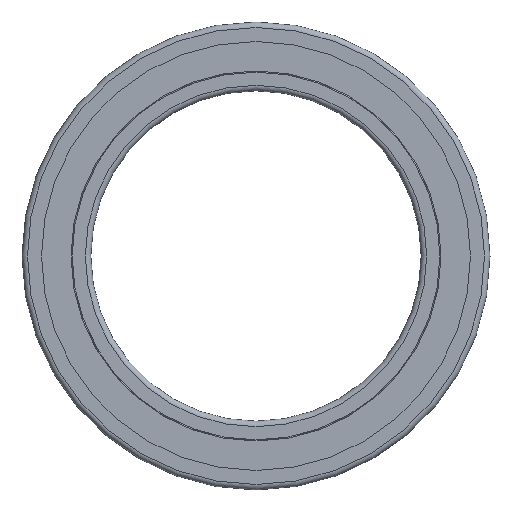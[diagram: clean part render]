
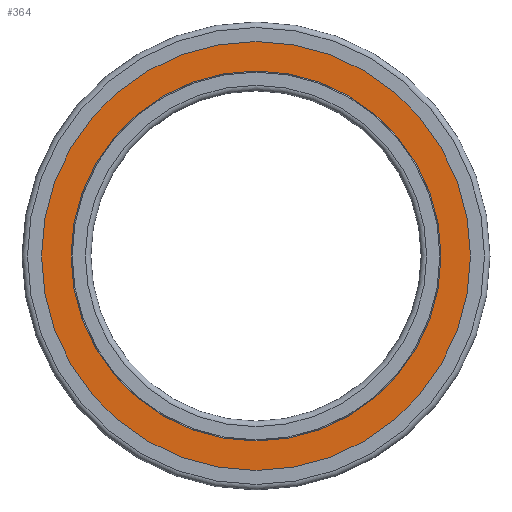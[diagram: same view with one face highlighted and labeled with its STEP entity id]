
A CAD part, left-side view. The second image highlights one B-rep face of the part: STEP entity #364.
In plain terms, the highlighted planar face has unit normal (-1, 0, 0).
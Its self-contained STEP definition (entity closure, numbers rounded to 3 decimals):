
#300=PLANE('',#1342);
#364=ADVANCED_FACE('',(#475,#476),#300,.F.);
#475=FACE_BOUND('',#699,.T.);
#476=FACE_BOUND('',#700,.T.);
#699=EDGE_LOOP('',(#891));
#700=EDGE_LOOP('',(#892));
#891=ORIENTED_EDGE('',*,*,#1203,.F.);
#892=ORIENTED_EDGE('',*,*,#1201,.T.);
#1073=VERTEX_POINT('',#1734);
#1075=VERTEX_POINT('',#1739);
#1201=EDGE_CURVE('',#1073,#1073,#1297,.T.);
#1203=EDGE_CURVE('',#1075,#1075,#1299,.T.);
#1297=CIRCLE('',#1338,38.95);
#1299=CIRCLE('',#1341,33.6);
#1338=AXIS2_PLACEMENT_3D('',#1733,#1484,#1485);
#1341=AXIS2_PLACEMENT_3D('',#1738,#1490,#1491);
#1342=AXIS2_PLACEMENT_3D('',#1740,#1492,#1493);
#1484=DIRECTION('',(-1.,0.,0.));
#1485=DIRECTION('',(0.,0.,1.));
#1490=DIRECTION('',(-1.,0.,0.));
#1491=DIRECTION('',(0.,0.,1.));
#1492=DIRECTION('',(1.,0.,0.));
#1493=DIRECTION('',(0.,0.,-1.));
#1733=CARTESIAN_POINT('',(0.1,0.,0.));
#1734=CARTESIAN_POINT('',(0.1,0.,38.95));
#1738=CARTESIAN_POINT('',(0.1,0.,0.));
#1739=CARTESIAN_POINT('',(0.1,0.,33.6));
#1740=CARTESIAN_POINT('',(0.1,0.,38.95));
